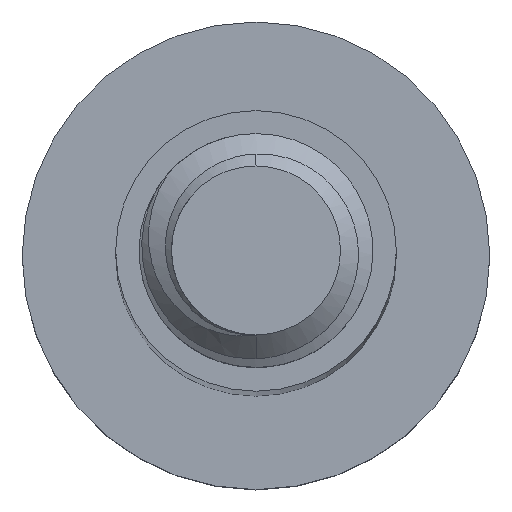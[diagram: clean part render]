
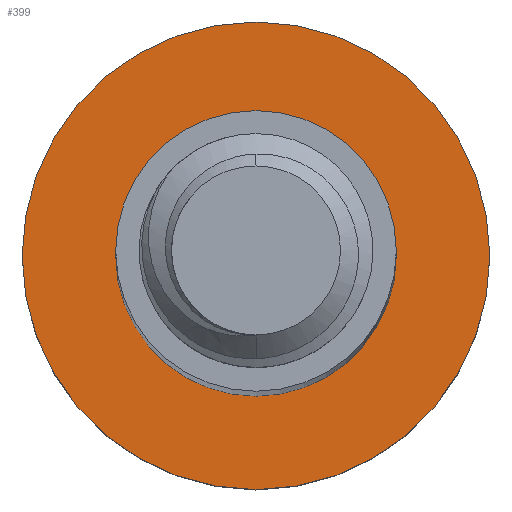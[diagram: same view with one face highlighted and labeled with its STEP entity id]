
A CAD part, top view. The second image highlights one B-rep face of the part: STEP entity #399.
In plain terms, the highlighted planar face has unit normal (0, 0, 1).
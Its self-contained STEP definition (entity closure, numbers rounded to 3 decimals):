
#61 = CIRCLE ( 'NONE', #257, 5. ) ;
#210 = ORIENTED_EDGE ( 'NONE', *, *, #2135, .F. ) ;
#212 = DIRECTION ( 'NONE',  ( -1., 0., 0. ) ) ;
#240 = PLANE ( 'NONE',  #438 ) ;
#255 = CARTESIAN_POINT ( 'NONE',  ( 0., 0., -60. ) ) ;
#257 = AXIS2_PLACEMENT_3D ( 'NONE', #255, #2087, #212 ) ;
#340 = DIRECTION ( 'NONE',  ( -1., 0., 0. ) ) ;
#373 = DIRECTION ( 'NONE',  ( 0., 0., -1. ) ) ;
#374 = EDGE_CURVE ( 'NONE', #676, #662, #601, .T. ) ;
#399 = ADVANCED_FACE ( 'NONE', ( #1711, #1915 ), #240, .F. ) ;
#438 = AXIS2_PLACEMENT_3D ( 'NONE', #970, #1720, #1533 ) ;
#545 = CARTESIAN_POINT ( 'NONE',  ( 5., 0., -60. ) ) ;
#574 = CARTESIAN_POINT ( 'NONE',  ( 0., 0., -60. ) ) ;
#581 = VERTEX_POINT ( 'NONE', #2187 ) ;
#601 = CIRCLE ( 'NONE', #1429, 3. ) ;
#603 = CIRCLE ( 'NONE', #912, 3. ) ;
#662 = VERTEX_POINT ( 'NONE', #2054 ) ;
#676 = VERTEX_POINT ( 'NONE', #1277 ) ;
#698 = EDGE_LOOP ( 'NONE', ( #210, #2088 ) ) ;
#715 = CARTESIAN_POINT ( 'NONE',  ( 0., 0., -60. ) ) ;
#912 = AXIS2_PLACEMENT_3D ( 'NONE', #574, #373, #2056 ) ;
#970 = CARTESIAN_POINT ( 'NONE',  ( 0., 0., -60. ) ) ;
#1036 = EDGE_CURVE ( 'NONE', #662, #676, #603, .T. ) ;
#1177 = CARTESIAN_POINT ( 'NONE',  ( 0., 0., -60. ) ) ;
#1199 = ORIENTED_EDGE ( 'NONE', *, *, #1036, .T. ) ;
#1277 = CARTESIAN_POINT ( 'NONE',  ( -3., 0., -60. ) ) ;
#1389 = AXIS2_PLACEMENT_3D ( 'NONE', #715, #1809, #340 ) ;
#1429 = AXIS2_PLACEMENT_3D ( 'NONE', #1177, #2269, #2297 ) ;
#1468 = CIRCLE ( 'NONE', #1389, 5. ) ;
#1533 = DIRECTION ( 'NONE',  ( -1., 0., 0. ) ) ;
#1637 = EDGE_CURVE ( 'NONE', #581, #2367, #1468, .T. ) ;
#1711 = FACE_BOUND ( 'NONE', #2314, .T. ) ;
#1720 = DIRECTION ( 'NONE',  ( 0., 0., -1. ) ) ;
#1809 = DIRECTION ( 'NONE',  ( 0., 0., -1. ) ) ;
#1915 = FACE_OUTER_BOUND ( 'NONE', #698, .T. ) ;
#2054 = CARTESIAN_POINT ( 'NONE',  ( 3., 0., -60. ) ) ;
#2056 = DIRECTION ( 'NONE',  ( -1., 0., 0. ) ) ;
#2078 = ORIENTED_EDGE ( 'NONE', *, *, #374, .T. ) ;
#2087 = DIRECTION ( 'NONE',  ( 0., 0., -1. ) ) ;
#2088 = ORIENTED_EDGE ( 'NONE', *, *, #1637, .F. ) ;
#2135 = EDGE_CURVE ( 'NONE', #2367, #581, #61, .T. ) ;
#2187 = CARTESIAN_POINT ( 'NONE',  ( -5., 0., -60. ) ) ;
#2269 = DIRECTION ( 'NONE',  ( 0., 0., -1. ) ) ;
#2297 = DIRECTION ( 'NONE',  ( -1., 0., 0. ) ) ;
#2314 = EDGE_LOOP ( 'NONE', ( #2078, #1199 ) ) ;
#2367 = VERTEX_POINT ( 'NONE', #545 ) ;
